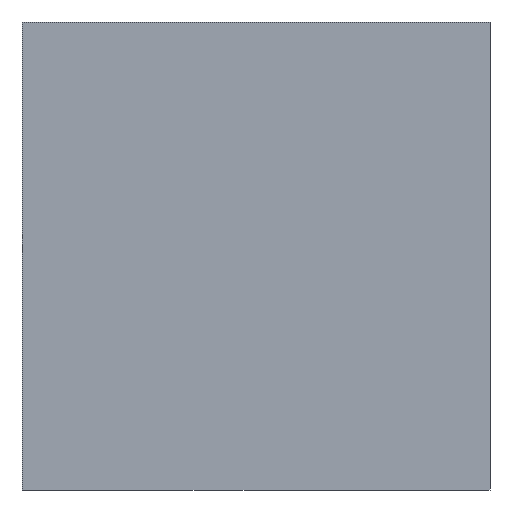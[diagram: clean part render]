
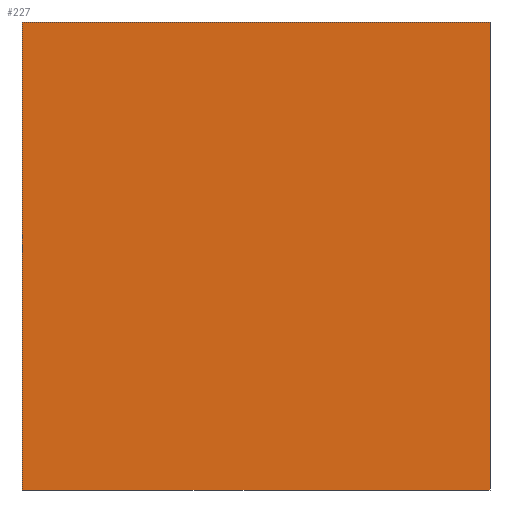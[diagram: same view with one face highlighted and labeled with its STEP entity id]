
A CAD part, left-side view. The second image highlights one B-rep face of the part: STEP entity #227.
In plain terms, the highlighted planar face has unit normal (-1, 0, 0).
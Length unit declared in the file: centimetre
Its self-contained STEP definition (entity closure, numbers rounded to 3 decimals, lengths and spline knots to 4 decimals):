
#1 = CARTESIAN_POINT ( 'NONE',  ( 0., 0., 1000. ) ) ;
#10 = VERTEX_POINT ( 'NONE', #69 ) ;
#12 = EDGE_CURVE ( 'NONE', #204, #261, #321, .T. ) ;
#26 = DIRECTION ( 'NONE',  ( 0., -1., 0. ) ) ;
#40 = DIRECTION ( 'NONE',  ( 0., 0., -1. ) ) ;
#42 = ORIENTED_EDGE ( 'NONE', *, *, #133, .T. ) ;
#43 = VECTOR ( 'NONE', #40, 100. ) ;
#51 = VERTEX_POINT ( 'NONE', #170 ) ;
#52 = VECTOR ( 'NONE', #349, 100. ) ;
#55 = CARTESIAN_POINT ( 'NONE',  ( 0., 1000., 1000. ) ) ;
#69 = CARTESIAN_POINT ( 'NONE',  ( 0., 0., 0. ) ) ;
#74 = EDGE_CURVE ( 'NONE', #261, #10, #163, .T. ) ;
#80 = CARTESIAN_POINT ( 'NONE',  ( 0., 1000., 1000. ) ) ;
#90 = ORIENTED_EDGE ( 'NONE', *, *, #12, .F. ) ;
#103 = CARTESIAN_POINT ( 'NONE',  ( 0., 0., 1000. ) ) ;
#107 = AXIS2_PLACEMENT_3D ( 'NONE', #55, #305, #151 ) ;
#133 = EDGE_CURVE ( 'NONE', #204, #51, #359, .T. ) ;
#143 = ORIENTED_EDGE ( 'NONE', *, *, #74, .F. ) ;
#147 = CARTESIAN_POINT ( 'NONE',  ( 0., 1000., 1000. ) ) ;
#151 = DIRECTION ( 'NONE',  ( 0., 0., -1. ) ) ;
#163 = LINE ( 'NONE', #103, #43 ) ;
#169 = CARTESIAN_POINT ( 'NONE',  ( 0., 1000., 1000. ) ) ;
#170 = CARTESIAN_POINT ( 'NONE',  ( 0., 1000., 0. ) ) ;
#188 = LINE ( 'NONE', #340, #352 ) ;
#204 = VERTEX_POINT ( 'NONE', #147 ) ;
#211 = FACE_OUTER_BOUND ( 'NONE', #381, .T. ) ;
#227 = ADVANCED_FACE ( 'NONE', ( #211 ), #334, .F. ) ;
#259 = ORIENTED_EDGE ( 'NONE', *, *, #350, .T. ) ;
#261 = VERTEX_POINT ( 'NONE', #1 ) ;
#266 = DIRECTION ( 'NONE',  ( 0., 0., -1. ) ) ;
#278 = VECTOR ( 'NONE', #266, 100. ) ;
#305 = DIRECTION ( 'NONE',  ( 1., 0., 0. ) ) ;
#321 = LINE ( 'NONE', #169, #52 ) ;
#334 = PLANE ( 'NONE',  #107 ) ;
#340 = CARTESIAN_POINT ( 'NONE',  ( 0., 1000., 0. ) ) ;
#349 = DIRECTION ( 'NONE',  ( 0., -1., 0. ) ) ;
#350 = EDGE_CURVE ( 'NONE', #51, #10, #188, .T. ) ;
#352 = VECTOR ( 'NONE', #26, 100. ) ;
#359 = LINE ( 'NONE', #80, #278 ) ;
#381 = EDGE_LOOP ( 'NONE', ( #259, #143, #90, #42 ) ) ;
